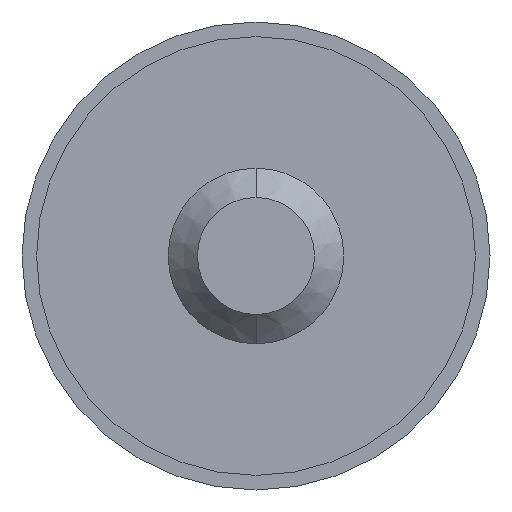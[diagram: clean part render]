
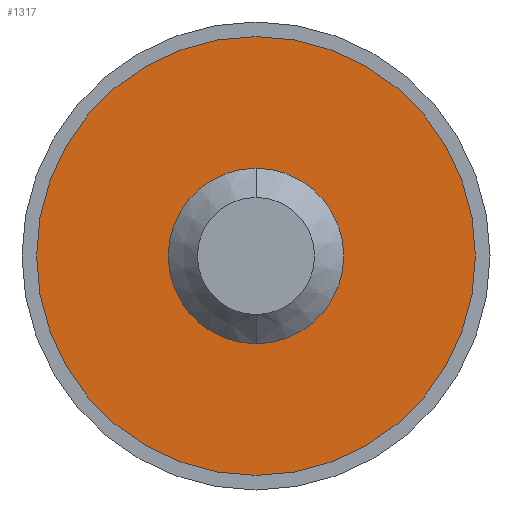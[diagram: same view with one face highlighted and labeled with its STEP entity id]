
A CAD part, front view. The second image highlights one B-rep face of the part: STEP entity #1317.
In plain terms, the highlighted planar face has unit normal (0, -1, 0).
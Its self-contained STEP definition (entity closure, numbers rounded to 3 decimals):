
#38 = CARTESIAN_POINT ( 'NONE',  ( 0., -0.5, 3.75 ) ) ;
#87 = EDGE_LOOP ( 'NONE', ( #1766, #1127 ) ) ;
#136 = CARTESIAN_POINT ( 'NONE',  ( 0., -0.5, 0. ) ) ;
#166 = DIRECTION ( 'NONE',  ( 0., 1., 0. ) ) ;
#236 = DIRECTION ( 'NONE',  ( 0., -1., 0. ) ) ;
#328 = DIRECTION ( 'NONE',  ( 0., 0., -1. ) ) ;
#504 = DIRECTION ( 'NONE',  ( 0., 0., 1. ) ) ;
#514 = EDGE_CURVE ( 'NONE', #3113, #3970, #4227, .T. ) ;
#601 = DIRECTION ( 'NONE',  ( 0., 0., -1. ) ) ;
#700 = AXIS2_PLACEMENT_3D ( 'NONE', #3454, #166, #1997 ) ;
#733 = EDGE_CURVE ( 'NONE', #1392, #1170, #3994, .T. ) ;
#779 = CIRCLE ( 'NONE', #700, 3.75 ) ;
#861 = CARTESIAN_POINT ( 'NONE',  ( 0., -0.5, -3.75 ) ) ;
#1117 = DIRECTION ( 'NONE',  ( 0., 1., 0. ) ) ;
#1127 = ORIENTED_EDGE ( 'NONE', *, *, #3249, .F. ) ;
#1170 = VERTEX_POINT ( 'NONE', #38 ) ;
#1252 = CARTESIAN_POINT ( 'NONE',  ( 0., -0.5, 1.5 ) ) ;
#1273 = EDGE_LOOP ( 'NONE', ( #2110, #4162 ) ) ;
#1317 = ADVANCED_FACE ( 'NONE', ( #4427, #3450 ), #3741, .F. ) ;
#1392 = VERTEX_POINT ( 'NONE', #861 ) ;
#1449 = DIRECTION ( 'NONE',  ( 0., -1., 0. ) ) ;
#1766 = ORIENTED_EDGE ( 'NONE', *, *, #514, .F. ) ;
#1921 = DIRECTION ( 'NONE',  ( 0., 0., 1. ) ) ;
#1997 = DIRECTION ( 'NONE',  ( 0., 0., 1. ) ) ;
#2008 = AXIS2_PLACEMENT_3D ( 'NONE', #3011, #2996, #1921 ) ;
#2110 = ORIENTED_EDGE ( 'NONE', *, *, #4445, .F. ) ;
#2524 = CARTESIAN_POINT ( 'NONE',  ( 0., -0.5, 0. ) ) ;
#2693 = CIRCLE ( 'NONE', #4012, 1.5 ) ;
#2996 = DIRECTION ( 'NONE',  ( 0., 1., 0. ) ) ;
#3011 = CARTESIAN_POINT ( 'NONE',  ( 0., -0.5, 0. ) ) ;
#3113 = VERTEX_POINT ( 'NONE', #1252 ) ;
#3122 = CARTESIAN_POINT ( 'NONE',  ( 0., -0.5, -1.5 ) ) ;
#3249 = EDGE_CURVE ( 'NONE', #3970, #3113, #2693, .T. ) ;
#3338 = AXIS2_PLACEMENT_3D ( 'NONE', #2524, #1449, #328 ) ;
#3450 = FACE_OUTER_BOUND ( 'NONE', #1273, .T. ) ;
#3454 = CARTESIAN_POINT ( 'NONE',  ( 0., -0.5, 0. ) ) ;
#3741 = PLANE ( 'NONE',  #2008 ) ;
#3970 = VERTEX_POINT ( 'NONE', #3122 ) ;
#3994 = CIRCLE ( 'NONE', #4134, 3.75 ) ;
#4012 = AXIS2_PLACEMENT_3D ( 'NONE', #4645, #236, #601 ) ;
#4134 = AXIS2_PLACEMENT_3D ( 'NONE', #136, #1117, #504 ) ;
#4162 = ORIENTED_EDGE ( 'NONE', *, *, #733, .F. ) ;
#4227 = CIRCLE ( 'NONE', #3338, 1.5 ) ;
#4427 = FACE_BOUND ( 'NONE', #87, .T. ) ;
#4445 = EDGE_CURVE ( 'NONE', #1170, #1392, #779, .T. ) ;
#4645 = CARTESIAN_POINT ( 'NONE',  ( 0., -0.5, 0. ) ) ;
